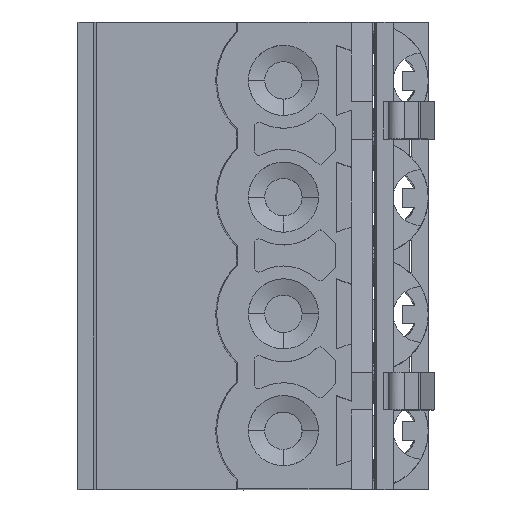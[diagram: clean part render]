
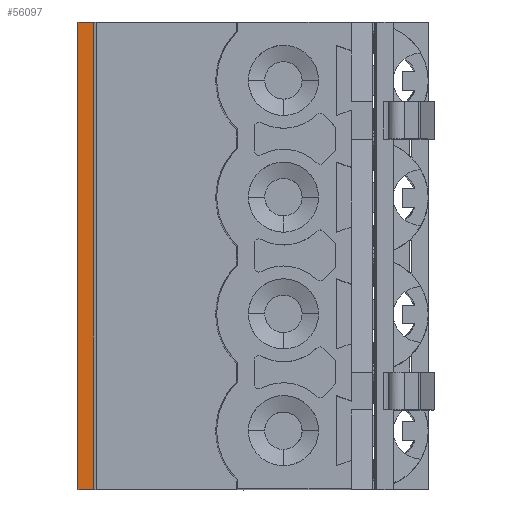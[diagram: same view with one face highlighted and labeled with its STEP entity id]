
A CAD part, top view. The second image highlights one B-rep face of the part: STEP entity #56097.
In plain terms, the highlighted free-form (B-spline) face has degree [1, 1] with [2, 2] control points.
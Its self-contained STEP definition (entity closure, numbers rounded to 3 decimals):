
#887 = B_SPLINE_SURFACE_WITH_KNOTS('',1,1,(
    (#888,#889)
    ,(#890,#891)),.UNSPECIFIED.,.F.,.F.,.F.,(2,2),(2,2),(0.,1.),(0.,1.),
  .PIECEWISE_BEZIER_KNOTS.);
#888 = CARTESIAN_POINT('',(36.676,20.3,-39.076));
#889 = CARTESIAN_POINT('',(36.676,20.3,21.476));
#890 = CARTESIAN_POINT('',(-23.876,20.3,-39.076));
#891 = CARTESIAN_POINT('',(-23.876,20.3,21.476));
#1096 = B_SPLINE_SURFACE_WITH_KNOTS('',1,1,(
    (#1097,#1098)
    ,(#1099,#1100
    )),.UNSPECIFIED.,.F.,.F.,.F.,(2,2),(2,2),(0.,1.),(0.,1.),
  .PIECEWISE_BEZIER_KNOTS.);
#1097 = CARTESIAN_POINT('',(36.676,0.3,21.476));
#1098 = CARTESIAN_POINT('',(36.676,0.3,-39.076));
#1099 = CARTESIAN_POINT('',(-23.876,0.3,21.476));
#1100 = CARTESIAN_POINT('',(-23.876,0.3,-39.076));
#2924 = B_SPLINE_SURFACE_WITH_KNOTS('',1,1,(
    (#2925,#2926)
    ,(#2927,#2928
    )),.UNSPECIFIED.,.F.,.F.,.F.,(2,2),(2,2),(0.,1.),(0.,1.),
  .PIECEWISE_BEZIER_KNOTS.);
#2925 = CARTESIAN_POINT('',(9.72,30.901,
    -26.789));
#2926 = CARTESIAN_POINT('',(9.72,-10.301,
    -26.789));
#2927 = CARTESIAN_POINT('',(-8.861,30.901,
    9.987));
#2928 = CARTESIAN_POINT('',(-8.861,-10.301,
    9.987));
#9356 = VERTEX_POINT('',#9357);
#9357 = CARTESIAN_POINT('',(-0.3,20.3,-8.3));
#9369 = B_SPLINE_SURFACE_WITH_KNOTS('',1,1,(
    (#9370,#9371)
    ,(#9372,#9373
    )),.UNSPECIFIED.,.F.,.F.,.F.,(2,2),(2,2),(0.,1.),(0.,1.),
  .PIECEWISE_BEZIER_KNOTS.);
#9370 = CARTESIAN_POINT('',(-0.3,-13.515,-38.09));
#9371 = CARTESIAN_POINT('',(-0.3,34.115,-38.09));
#9372 = CARTESIAN_POINT('',(-0.3,-13.515,9.54));
#9373 = CARTESIAN_POINT('',(-0.3,34.115,9.54));
#9380 = EDGE_CURVE('',#9356,#9381,#9383,.T.);
#9381 = VERTEX_POINT('',#9382);
#9382 = CARTESIAN_POINT('',(0.378,20.3,-8.3));
#9383 = SURFACE_CURVE('',#9384,(#9387,#9393),.PCURVE_S1.);
#9384 = B_SPLINE_CURVE_WITH_KNOTS('',1,(#9385,#9386),.UNSPECIFIED.,.F.,
  .F.,(2,2),(0.,1.),.PIECEWISE_BEZIER_KNOTS.);
#9385 = CARTESIAN_POINT('',(-0.3,20.3,-8.3));
#9386 = CARTESIAN_POINT('',(0.378,20.3,-8.3));
#9387 = PCURVE('',#887,#9388);
#9388 = DEFINITIONAL_REPRESENTATION('',(#9389),#9392);
#9389 = B_SPLINE_CURVE_WITH_KNOTS('',1,(#9390,#9391),.UNSPECIFIED.,.F.,
  .F.,(2,2),(0.,1.),.PIECEWISE_BEZIER_KNOTS.);
#9390 = CARTESIAN_POINT('',(0.611,0.508));
#9391 = CARTESIAN_POINT('',(0.599,0.508));
#9392 = ( GEOMETRIC_REPRESENTATION_CONTEXT(2) 
PARAMETRIC_REPRESENTATION_CONTEXT() REPRESENTATION_CONTEXT('2D SPACE',''
  ) );
#9393 = PCURVE('',#9394,#9399);
#9394 = B_SPLINE_SURFACE_WITH_KNOTS('',1,1,(
    (#9395,#9396)
    ,(#9397,#9398
    )),.UNSPECIFIED.,.F.,.F.,.F.,(2,2),(2,2),(0.,1.),(0.,1.),
  .PIECEWISE_BEZIER_KNOTS.);
#9395 = CARTESIAN_POINT('',(-20.572,-10.311,
    -8.3));
#9396 = CARTESIAN_POINT('',(-20.572,30.911,
    -8.3));
#9397 = CARTESIAN_POINT('',(20.65,-10.311,
    -8.3));
#9398 = CARTESIAN_POINT('',(20.65,30.911,
    -8.3));
#9399 = DEFINITIONAL_REPRESENTATION('',(#9400),#9403);
#9400 = B_SPLINE_CURVE_WITH_KNOTS('',1,(#9401,#9402),.UNSPECIFIED.,.F.,
  .F.,(2,2),(0.,1.),.PIECEWISE_BEZIER_KNOTS.);
#9401 = CARTESIAN_POINT('',(0.492,0.743));
#9402 = CARTESIAN_POINT('',(0.508,0.743));
#9403 = ( GEOMETRIC_REPRESENTATION_CONTEXT(2) 
PARAMETRIC_REPRESENTATION_CONTEXT() REPRESENTATION_CONTEXT('2D SPACE',''
  ) );
#21224 = VERTEX_POINT('',#21225);
#21225 = CARTESIAN_POINT('',(0.378,0.3,-8.3));
#21243 = EDGE_CURVE('',#21224,#21244,#21246,.T.);
#21244 = VERTEX_POINT('',#21245);
#21245 = CARTESIAN_POINT('',(-0.3,0.3,-8.3));
#21246 = SURFACE_CURVE('',#21247,(#21250,#21256),.PCURVE_S1.);
#21247 = B_SPLINE_CURVE_WITH_KNOTS('',1,(#21248,#21249),.UNSPECIFIED.,
  .F.,.F.,(2,2),(0.,1.),.PIECEWISE_BEZIER_KNOTS.);
#21248 = CARTESIAN_POINT('',(0.378,0.3,-8.3));
#21249 = CARTESIAN_POINT('',(-0.3,0.3,-8.3));
#21250 = PCURVE('',#1096,#21251);
#21251 = DEFINITIONAL_REPRESENTATION('',(#21252),#21255);
#21252 = B_SPLINE_CURVE_WITH_KNOTS('',1,(#21253,#21254),.UNSPECIFIED.,
  .F.,.F.,(2,2),(0.,1.),.PIECEWISE_BEZIER_KNOTS.);
#21253 = CARTESIAN_POINT('',(0.599,0.492));
#21254 = CARTESIAN_POINT('',(0.611,0.492));
#21255 = ( GEOMETRIC_REPRESENTATION_CONTEXT(2) 
PARAMETRIC_REPRESENTATION_CONTEXT() REPRESENTATION_CONTEXT('2D SPACE',''
  ) );
#21256 = PCURVE('',#9394,#21257);
#21257 = DEFINITIONAL_REPRESENTATION('',(#21258),#21261);
#21258 = B_SPLINE_CURVE_WITH_KNOTS('',1,(#21259,#21260),.UNSPECIFIED.,
  .F.,.F.,(2,2),(0.,1.),.PIECEWISE_BEZIER_KNOTS.);
#21259 = CARTESIAN_POINT('',(0.508,0.257));
#21260 = CARTESIAN_POINT('',(0.492,0.257));
#21261 = ( GEOMETRIC_REPRESENTATION_CONTEXT(2) 
PARAMETRIC_REPRESENTATION_CONTEXT() REPRESENTATION_CONTEXT('2D SPACE',''
  ) );
#53196 = EDGE_CURVE('',#21244,#9356,#53197,.T.);
#53197 = SURFACE_CURVE('',#53198,(#53201,#53207),.PCURVE_S1.);
#53198 = B_SPLINE_CURVE_WITH_KNOTS('',1,(#53199,#53200),.UNSPECIFIED.,
  .F.,.F.,(2,2),(0.257,0.743),
  .PIECEWISE_BEZIER_KNOTS.);
#53199 = CARTESIAN_POINT('',(-0.3,0.3,-8.3));
#53200 = CARTESIAN_POINT('',(-0.3,20.3,-8.3));
#53201 = PCURVE('',#9369,#53202);
#53202 = DEFINITIONAL_REPRESENTATION('',(#53203),#53206);
#53203 = B_SPLINE_CURVE_WITH_KNOTS('',1,(#53204,#53205),.UNSPECIFIED.,
  .F.,.F.,(2,2),(0.257,0.743),
  .PIECEWISE_BEZIER_KNOTS.);
#53204 = CARTESIAN_POINT('',(0.625,0.29));
#53205 = CARTESIAN_POINT('',(0.625,0.71));
#53206 = ( GEOMETRIC_REPRESENTATION_CONTEXT(2) 
PARAMETRIC_REPRESENTATION_CONTEXT() REPRESENTATION_CONTEXT('2D SPACE',''
  ) );
#53207 = PCURVE('',#9394,#53208);
#53208 = DEFINITIONAL_REPRESENTATION('',(#53209),#53213);
#53209 = LINE('',#53210,#53211);
#53210 = CARTESIAN_POINT('',(0.492,0.));
#53211 = VECTOR('',#53212,1.);
#53212 = DIRECTION('',(0.,1.));
#53213 = ( GEOMETRIC_REPRESENTATION_CONTEXT(2) 
PARAMETRIC_REPRESENTATION_CONTEXT() REPRESENTATION_CONTEXT('2D SPACE',''
  ) );
#56097 = ADVANCED_FACE('',(#56098),#9394,.T.);
#56098 = FACE_BOUND('',#56099,.T.);
#56099 = EDGE_LOOP('',(#56100,#56101,#56102,#56103));
#56100 = ORIENTED_EDGE('',*,*,#9380,.F.);
#56101 = ORIENTED_EDGE('',*,*,#53196,.F.);
#56102 = ORIENTED_EDGE('',*,*,#21243,.F.);
#56103 = ORIENTED_EDGE('',*,*,#56104,.T.);
#56104 = EDGE_CURVE('',#21224,#9381,#56105,.T.);
#56105 = SURFACE_CURVE('',#56106,(#56109,#56115),.PCURVE_S1.);
#56106 = B_SPLINE_CURVE_WITH_KNOTS('',1,(#56107,#56108),.UNSPECIFIED.,
  .F.,.F.,(2,2),(0.257,0.743),
  .PIECEWISE_BEZIER_KNOTS.);
#56107 = CARTESIAN_POINT('',(0.378,0.3,-8.3));
#56108 = CARTESIAN_POINT('',(0.378,20.3,-8.3));
#56109 = PCURVE('',#9394,#56110);
#56110 = DEFINITIONAL_REPRESENTATION('',(#56111),#56114);
#56111 = B_SPLINE_CURVE_WITH_KNOTS('',1,(#56112,#56113),.UNSPECIFIED.,
  .F.,.F.,(2,2),(0.257,0.743),
  .PIECEWISE_BEZIER_KNOTS.);
#56112 = CARTESIAN_POINT('',(0.508,0.257));
#56113 = CARTESIAN_POINT('',(0.508,0.743));
#56114 = ( GEOMETRIC_REPRESENTATION_CONTEXT(2) 
PARAMETRIC_REPRESENTATION_CONTEXT() REPRESENTATION_CONTEXT('2D SPACE',''
  ) );
#56115 = PCURVE('',#2924,#56116);
#56116 = DEFINITIONAL_REPRESENTATION('',(#56117),#56121);
#56117 = LINE('',#56118,#56119);
#56118 = CARTESIAN_POINT('',(0.503,1.));
#56119 = VECTOR('',#56120,1.);
#56120 = DIRECTION('',(0.,-1.));
#56121 = ( GEOMETRIC_REPRESENTATION_CONTEXT(2) 
PARAMETRIC_REPRESENTATION_CONTEXT() REPRESENTATION_CONTEXT('2D SPACE',''
  ) );
